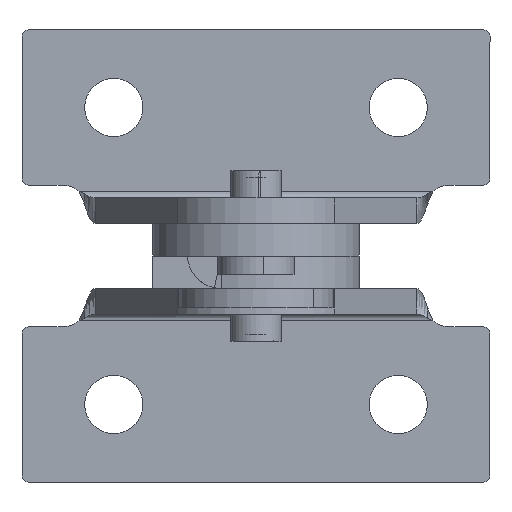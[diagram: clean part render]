
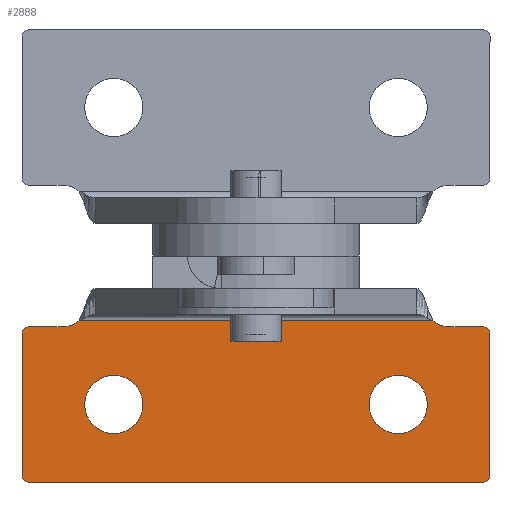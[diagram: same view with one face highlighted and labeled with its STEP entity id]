
A CAD part, left-side view. The second image highlights one B-rep face of the part: STEP entity #2888.
In plain terms, the highlighted planar face has unit normal (-1, 0, 0) as drawn and (0, 0, 1) by its records, which use the part's own axes.
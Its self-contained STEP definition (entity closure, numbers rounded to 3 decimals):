
#12 = ORIENTED_EDGE ( 'NONE', *, *, #2640, .T. ) ;
#75 = CARTESIAN_POINT ( 'NONE',  ( 13.25, 6., 0. ) ) ;
#95 = CARTESIAN_POINT ( 'NONE',  ( 15., 12., 0. ) ) ;
#111 = DIRECTION ( 'NONE',  ( 0., 0., 1. ) ) ;
#113 = AXIS2_PLACEMENT_3D ( 'NONE', #2752, #1293, #2984 ) ;
#158 = DIRECTION ( 'NONE',  ( 1., 0., 0. ) ) ;
#259 = ORIENTED_EDGE ( 'NONE', *, *, #1473, .T. ) ;
#261 = EDGE_CURVE ( 'NONE', #1573, #1966, #1376, .T. ) ;
#336 = DIRECTION ( 'NONE',  ( 0., 0., 1. ) ) ;
#351 = AXIS2_PLACEMENT_3D ( 'NONE', #2547, #838, #2281 ) ;
#366 = VERTEX_POINT ( 'NONE', #1579 ) ;
#378 = ORIENTED_EDGE ( 'NONE', *, *, #2257, .T. ) ;
#404 = VERTEX_POINT ( 'NONE', #633 ) ;
#405 = VERTEX_POINT ( 'NONE', #871 ) ;
#443 = CARTESIAN_POINT ( 'NONE',  ( -17.6, 11.5, 0. ) ) ;
#447 = DIRECTION ( 'NONE',  ( -1., 0., 0. ) ) ;
#472 = AXIS2_PLACEMENT_3D ( 'NONE', #1393, #2121, #689 ) ;
#473 = EDGE_CURVE ( 'NONE', #1966, #1562, #1341, .T. ) ;
#514 = CARTESIAN_POINT ( 'NONE',  ( 17.6, 0., 0. ) ) ;
#526 = AXIS2_PLACEMENT_3D ( 'NONE', #2310, #336, #1968 ) ;
#565 = VERTEX_POINT ( 'NONE', #2498 ) ;
#589 = CARTESIAN_POINT ( 'NONE',  ( -17.6, 0., 0. ) ) ;
#612 = CARTESIAN_POINT ( 'NONE',  ( 18.1, 0., 0. ) ) ;
#620 = VERTEX_POINT ( 'NONE', #3057 ) ;
#633 = CARTESIAN_POINT ( 'NONE',  ( 8.75, 6., 0. ) ) ;
#651 = ORIENTED_EDGE ( 'NONE', *, *, #1326, .F. ) ;
#654 = CIRCLE ( 'NONE', #835, 0.5 ) ;
#665 = ORIENTED_EDGE ( 'NONE', *, *, #473, .T. ) ;
#674 = ORIENTED_EDGE ( 'NONE', *, *, #1219, .F. ) ;
#678 = DIRECTION ( 'NONE',  ( 0., -1., 0. ) ) ;
#689 = DIRECTION ( 'NONE',  ( 1., 0., 0. ) ) ;
#691 = DIRECTION ( 'NONE',  ( 1., 0., 0. ) ) ;
#694 = CARTESIAN_POINT ( 'NONE',  ( 15., 12.489, 0. ) ) ;
#704 = DIRECTION ( 'NONE',  ( 0., 0., 1. ) ) ;
#720 = LINE ( 'NONE', #1747, #2585 ) ;
#725 = EDGE_CURVE ( 'NONE', #918, #565, #1855, .T. ) ;
#786 = EDGE_CURVE ( 'NONE', #2572, #366, #3005, .T. ) ;
#804 = EDGE_CURVE ( 'NONE', #2649, #2486, #2783, .T. ) ;
#835 = AXIS2_PLACEMENT_3D ( 'NONE', #443, #2126, #691 ) ;
#838 = DIRECTION ( 'NONE',  ( 0., 0., -1. ) ) ;
#863 = AXIS2_PLACEMENT_3D ( 'NONE', #1076, #2784, #1325 ) ;
#871 = CARTESIAN_POINT ( 'NONE',  ( -13.69, 12.489, 0. ) ) ;
#899 = EDGE_CURVE ( 'NONE', #2486, #2649, #2561, .T. ) ;
#901 = EDGE_CURVE ( 'NONE', #1562, #405, #1965, .T. ) ;
#918 = VERTEX_POINT ( 'NONE', #1164 ) ;
#927 = DIRECTION ( 'NONE',  ( 0., 0., 1. ) ) ;
#934 = CARTESIAN_POINT ( 'NONE',  ( -18.1, 11.5, 0. ) ) ;
#972 = CIRCLE ( 'NONE', #863, 2. ) ;
#1013 = CIRCLE ( 'NONE', #1048, 2.25 ) ;
#1027 = ORIENTED_EDGE ( 'NONE', *, *, #261, .T. ) ;
#1028 = ORIENTED_EDGE ( 'NONE', *, *, #3119, .T. ) ;
#1047 = DIRECTION ( 'NONE',  ( 0., 0., 1. ) ) ;
#1048 = AXIS2_PLACEMENT_3D ( 'NONE', #3039, #1577, #158 ) ;
#1071 = VERTEX_POINT ( 'NONE', #514 ) ;
#1076 = CARTESIAN_POINT ( 'NONE',  ( -15., 14., 0. ) ) ;
#1136 = ORIENTED_EDGE ( 'NONE', *, *, #2687, .T. ) ;
#1164 = CARTESIAN_POINT ( 'NONE',  ( -15., 12., 0. ) ) ;
#1204 = VECTOR ( 'NONE', #678, 1000. ) ;
#1219 = EDGE_CURVE ( 'NONE', #404, #3121, #1247, .T. ) ;
#1236 = CARTESIAN_POINT ( 'NONE',  ( -8.75, 6., 0. ) ) ;
#1247 = CIRCLE ( 'NONE', #2749, 2.25 ) ;
#1255 = VECTOR ( 'NONE', #447, 1000. ) ;
#1259 = VERTEX_POINT ( 'NONE', #589 ) ;
#1293 = DIRECTION ( 'NONE',  ( 0., 0., 1. ) ) ;
#1294 = CARTESIAN_POINT ( 'NONE',  ( -15., 12., 0. ) ) ;
#1325 = DIRECTION ( 'NONE',  ( 1., 0., 0. ) ) ;
#1326 = EDGE_CURVE ( 'NONE', #3121, #404, #1013, .T. ) ;
#1341 = CIRCLE ( 'NONE', #351, 2. ) ;
#1376 = LINE ( 'NONE', #1399, #2604 ) ;
#1393 = CARTESIAN_POINT ( 'NONE',  ( 15., 14., 0. ) ) ;
#1399 = CARTESIAN_POINT ( 'NONE',  ( 18.1, 12., 0. ) ) ;
#1406 = ORIENTED_EDGE ( 'NONE', *, *, #725, .T. ) ;
#1457 = EDGE_CURVE ( 'NONE', #1521, #620, #2424, .T. ) ;
#1473 = EDGE_CURVE ( 'NONE', #565, #1521, #654, .T. ) ;
#1521 = VERTEX_POINT ( 'NONE', #934 ) ;
#1530 = CARTESIAN_POINT ( 'NONE',  ( 17.6, 0.5, 0. ) ) ;
#1555 = VECTOR ( 'NONE', #2103, 1000. ) ;
#1562 = VERTEX_POINT ( 'NONE', #1661 ) ;
#1573 = VERTEX_POINT ( 'NONE', #2153 ) ;
#1577 = DIRECTION ( 'NONE',  ( 0., 0., 1. ) ) ;
#1579 = CARTESIAN_POINT ( 'NONE',  ( 18.1, 11.5, 0. ) ) ;
#1661 = CARTESIAN_POINT ( 'NONE',  ( 13.69, 12.489, 0. ) ) ;
#1665 = EDGE_LOOP ( 'NONE', ( #2969, #2243 ) ) ;
#1721 = FACE_OUTER_BOUND ( 'NONE', #2930, .T. ) ;
#1747 = CARTESIAN_POINT ( 'NONE',  ( -18.1, 0., 0. ) ) ;
#1771 = DIRECTION ( 'NONE',  ( 1., 0., 0. ) ) ;
#1855 = LINE ( 'NONE', #1294, #3086 ) ;
#1876 = FACE_BOUND ( 'NONE', #2052, .T. ) ;
#1940 = ORIENTED_EDGE ( 'NONE', *, *, #1457, .T. ) ;
#1965 = LINE ( 'NONE', #694, #1255 ) ;
#1966 = VERTEX_POINT ( 'NONE', #95 ) ;
#1968 = DIRECTION ( 'NONE',  ( 1., 0., 0. ) ) ;
#1990 = CIRCLE ( 'NONE', #113, 0.5 ) ;
#2052 = EDGE_LOOP ( 'NONE', ( #651, #674 ) ) ;
#2103 = DIRECTION ( 'NONE',  ( 0., 1., 0. ) ) ;
#2121 = DIRECTION ( 'NONE',  ( 0., 0., 1. ) ) ;
#2126 = DIRECTION ( 'NONE',  ( 0., 0., 1. ) ) ;
#2136 = CARTESIAN_POINT ( 'NONE',  ( 17.6, 11.5, 0. ) ) ;
#2153 = CARTESIAN_POINT ( 'NONE',  ( 17.6, 12., 0. ) ) ;
#2243 = ORIENTED_EDGE ( 'NONE', *, *, #804, .F. ) ;
#2257 = EDGE_CURVE ( 'NONE', #366, #1573, #2559, .T. ) ;
#2271 = AXIS2_PLACEMENT_3D ( 'NONE', #2136, #704, #2385 ) ;
#2281 = DIRECTION ( 'NONE',  ( 1., 0., 0. ) ) ;
#2310 = CARTESIAN_POINT ( 'NONE',  ( -11., 6., 0. ) ) ;
#2312 = ORIENTED_EDGE ( 'NONE', *, *, #786, .T. ) ;
#2340 = CIRCLE ( 'NONE', #2864, 0.5 ) ;
#2368 = DIRECTION ( 'NONE',  ( -1., 0., 0. ) ) ;
#2382 = CARTESIAN_POINT ( 'NONE',  ( -11., 6., 0. ) ) ;
#2385 = DIRECTION ( 'NONE',  ( 1., 0., 0. ) ) ;
#2424 = LINE ( 'NONE', #2845, #1204 ) ;
#2484 = AXIS2_PLACEMENT_3D ( 'NONE', #2382, #927, #2629 ) ;
#2486 = VERTEX_POINT ( 'NONE', #1236 ) ;
#2498 = CARTESIAN_POINT ( 'NONE',  ( -17.6, 12., 0. ) ) ;
#2510 = CARTESIAN_POINT ( 'NONE',  ( -13.25, 6., 0. ) ) ;
#2516 = CARTESIAN_POINT ( 'NONE',  ( 11., 6., 0. ) ) ;
#2547 = CARTESIAN_POINT ( 'NONE',  ( 15., 14., 0. ) ) ;
#2559 = CIRCLE ( 'NONE', #2271, 0.5 ) ;
#2561 = CIRCLE ( 'NONE', #2484, 2.25 ) ;
#2572 = VERTEX_POINT ( 'NONE', #2720 ) ;
#2585 = VECTOR ( 'NONE', #2730, 1000. ) ;
#2604 = VECTOR ( 'NONE', #2368, 1000. ) ;
#2629 = DIRECTION ( 'NONE',  ( 1., 0., 0. ) ) ;
#2640 = EDGE_CURVE ( 'NONE', #1071, #2572, #2340, .T. ) ;
#2649 = VERTEX_POINT ( 'NONE', #2510 ) ;
#2687 = EDGE_CURVE ( 'NONE', #405, #918, #972, .T. ) ;
#2720 = CARTESIAN_POINT ( 'NONE',  ( 18.1, 0.5, 0. ) ) ;
#2723 = ORIENTED_EDGE ( 'NONE', *, *, #901, .T. ) ;
#2730 = DIRECTION ( 'NONE',  ( 1., 0., 0. ) ) ;
#2749 = AXIS2_PLACEMENT_3D ( 'NONE', #2516, #1047, #2763 ) ;
#2752 = CARTESIAN_POINT ( 'NONE',  ( -17.6, 0.5, 0. ) ) ;
#2763 = DIRECTION ( 'NONE',  ( 1., 0., 0. ) ) ;
#2783 = CIRCLE ( 'NONE', #526, 2.25 ) ;
#2784 = DIRECTION ( 'NONE',  ( 0., 0., -1. ) ) ;
#2824 = ORIENTED_EDGE ( 'NONE', *, *, #3076, .T. ) ;
#2845 = CARTESIAN_POINT ( 'NONE',  ( -18.1, 12., 0. ) ) ;
#2864 = AXIS2_PLACEMENT_3D ( 'NONE', #1530, #111, #1771 ) ;
#2888 = ADVANCED_FACE ( 'NONE', ( #3026, #1876, #1721 ), #3101, .T. ) ;
#2930 = EDGE_LOOP ( 'NONE', ( #2312, #378, #1027, #665, #2723, #1136, #1406, #259, #1940, #1028, #2824, #12 ) ) ;
#2969 = ORIENTED_EDGE ( 'NONE', *, *, #899, .F. ) ;
#2984 = DIRECTION ( 'NONE',  ( 1., 0., 0. ) ) ;
#2986 = DIRECTION ( 'NONE',  ( -1., 0., 0. ) ) ;
#3005 = LINE ( 'NONE', #612, #1555 ) ;
#3026 = FACE_BOUND ( 'NONE', #1665, .T. ) ;
#3039 = CARTESIAN_POINT ( 'NONE',  ( 11., 6., 0. ) ) ;
#3057 = CARTESIAN_POINT ( 'NONE',  ( -18.1, 0.5, 0. ) ) ;
#3076 = EDGE_CURVE ( 'NONE', #1259, #1071, #720, .T. ) ;
#3086 = VECTOR ( 'NONE', #2986, 1000. ) ;
#3101 = PLANE ( 'NONE',  #472 ) ;
#3119 = EDGE_CURVE ( 'NONE', #620, #1259, #1990, .T. ) ;
#3121 = VERTEX_POINT ( 'NONE', #75 ) ;
